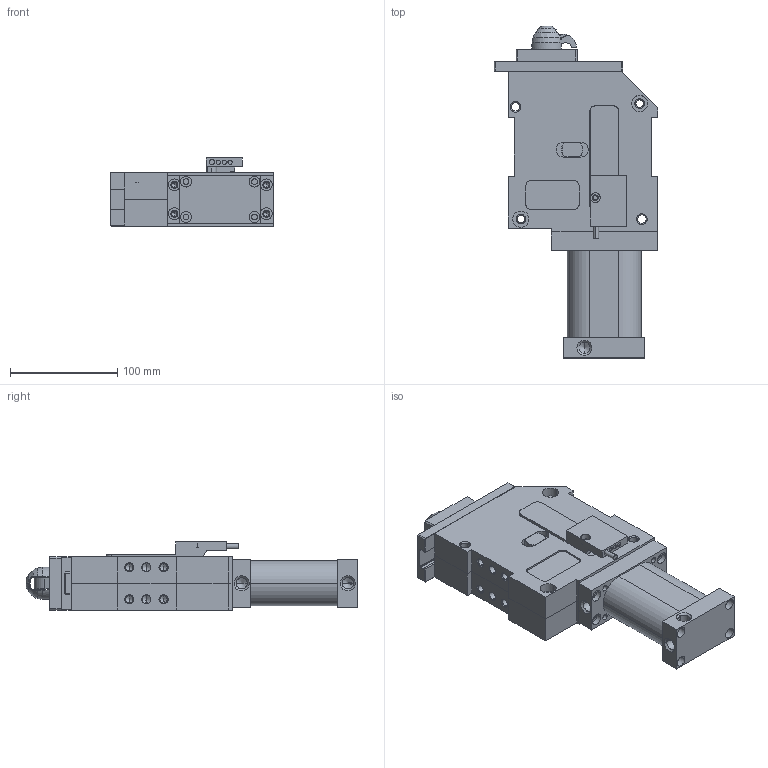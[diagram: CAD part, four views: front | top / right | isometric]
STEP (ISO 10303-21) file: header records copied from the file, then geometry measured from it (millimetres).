
FILE_DESCRIPTION (( 'STEP AP203' ), '1' );
FILE_NAME ('dpa50-07073_close.STEP', '2013-04-18T08:02:58', ( '' ), ( '' ), 'SwSTEP 2.0', 'SolidWorks 2013', '' );
FILE_SCHEMA (( 'CONFIG_CONTROL_DESIGN' ));
Length unit declared in the file: millimetre
Products named in the file (13): dpa50-07073_close; estruso_ales_50_55_00000; testata superiore cpp50 dca dpa; testata_inferiore_cpe50_05084; fc induttivo turck 55; riparo fc dca40; piastra dpa50 mercedes; fianchetto_sx_dpa50_04973; riparo scorrevole dpa50 mercedes; 30.0; fianchetto_dx_dpa50_04976; G30; perno rotazione dpa50
Assembly tree (12 placements, depth 2):
  dpa50-07073_close
    fianchetto_sx_dpa50_04973
    fianchetto_dx_dpa50_04976
    perno rotazione dpa50
    estruso_ales_50_55_00000
    testata superiore cpp50 dca dpa
    testata_inferiore_cpe50_05084
    fc induttivo turck 55
    riparo fc dca40
    piastra dpa50 mercedes
    30.0
    riparo scorrevole dpa50 mercedes
    G30
Bounding box: 153 x 310.2 x 63.7 mm (x, y, z)
Volume: 804027.5 mm3; surface area: 251235.8 mm2
Topology: 12 solids, 12 shells, 955 faces, 2421 edges, 1508 vertices
Faces by surface type: cylinder 387, plane 346, cone 164, bspline 58
Entity records: 36216 total; most frequent: CARTESIAN_POINT 11570, DIRECTION 4972, ORIENTED_EDGE 4738, EDGE_CURVE 2369, AXIS2_PLACEMENT_3D 1826, VERTEX_POINT 1508, LINE 1320, VECTOR 1320
